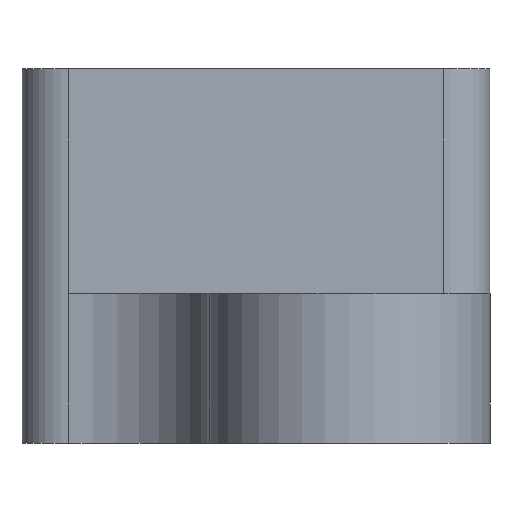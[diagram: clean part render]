
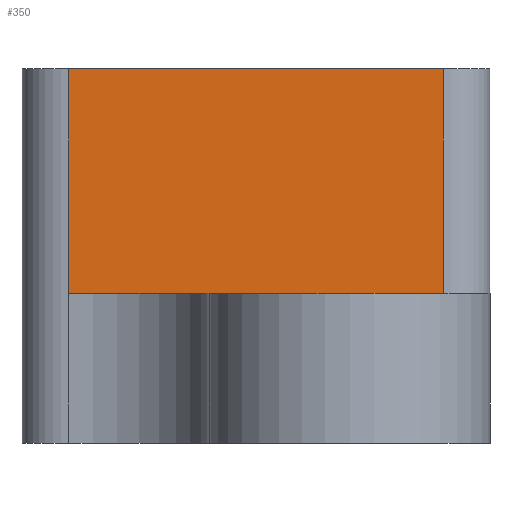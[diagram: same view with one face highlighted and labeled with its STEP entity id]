
A CAD part, left-side view. The second image highlights one B-rep face of the part: STEP entity #350.
In plain terms, the highlighted planar face has unit normal (-1, 0, 0).
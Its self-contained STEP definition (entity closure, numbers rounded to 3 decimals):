
#25=PLANE('',#410);
#40=FACE_OUTER_BOUND('',#63,.T.);
#63=EDGE_LOOP('',(#292,#293,#294,#295));
#87=LINE('',#585,#114);
#90=LINE('',#594,#117);
#95=LINE('',#614,#122);
#96=LINE('',#617,#123);
#114=VECTOR('',#470,10.);
#117=VECTOR('',#479,10.);
#122=VECTOR('',#502,10.);
#123=VECTOR('',#507,10.);
#168=VERTEX_POINT('',#582);
#169=VERTEX_POINT('',#584);
#172=VERTEX_POINT('',#592);
#178=VERTEX_POINT('',#613);
#205=EDGE_CURVE('',#168,#169,#87,.T.);
#210=EDGE_CURVE('',#172,#168,#90,.T.);
#220=EDGE_CURVE('',#169,#178,#95,.T.);
#222=EDGE_CURVE('',#172,#178,#96,.T.);
#292=ORIENTED_EDGE('',*,*,#210,.F.);
#293=ORIENTED_EDGE('',*,*,#222,.T.);
#294=ORIENTED_EDGE('',*,*,#220,.F.);
#295=ORIENTED_EDGE('',*,*,#205,.F.);
#350=ADVANCED_FACE('',(#40),#25,.T.);
#410=AXIS2_PLACEMENT_3D('',#616,#505,#506);
#470=DIRECTION('',(0.,-1.,0.));
#479=DIRECTION('',(0.,0.,1.));
#502=DIRECTION('',(0.,0.,-1.));
#505=DIRECTION('center_axis',(-1.,0.,0.));
#506=DIRECTION('ref_axis',(0.,-1.,0.));
#507=DIRECTION('',(0.,-1.,0.));
#582=CARTESIAN_POINT('',(-5.,6.,8.));
#584=CARTESIAN_POINT('',(-5.,-2.,8.));
#585=CARTESIAN_POINT('',(-5.,6.,8.));
#592=CARTESIAN_POINT('',(-5.,6.,3.2));
#594=CARTESIAN_POINT('',(-5.,6.,0.));
#613=CARTESIAN_POINT('',(-5.,-2.,3.2));
#614=CARTESIAN_POINT('',(-5.,-2.,0.));
#616=CARTESIAN_POINT('Origin',(-5.,7.,0.));
#617=CARTESIAN_POINT('',(-5.,-3.,3.2));
